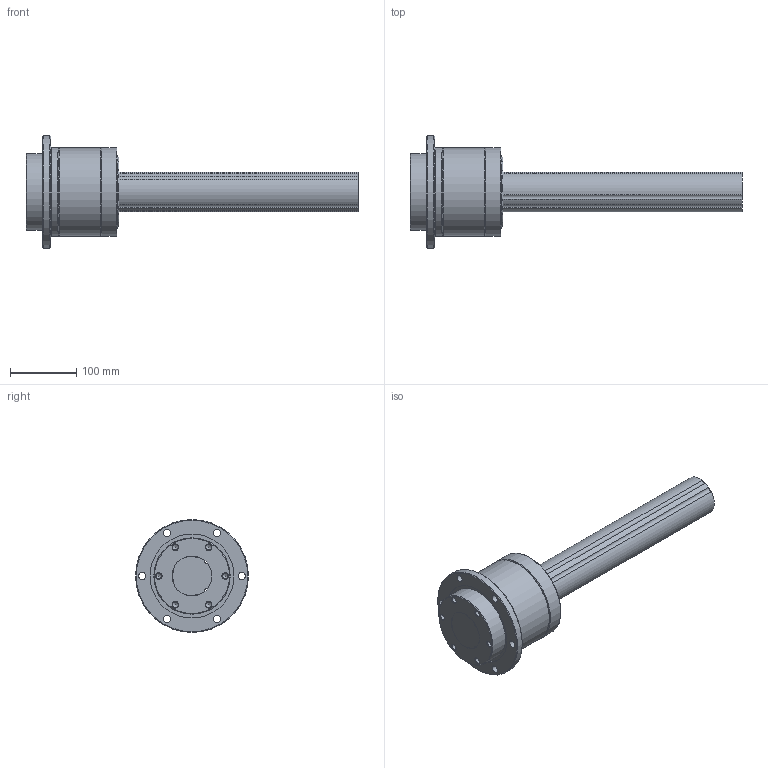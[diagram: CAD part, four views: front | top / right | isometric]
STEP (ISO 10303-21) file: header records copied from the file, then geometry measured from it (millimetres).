
FILE_DESCRIPTION(/* description */ ('STEP AP214'),/* implementation_level */ '2;1');
FILE_NAME(/* name */ 'LTR60+500L(00-)',/* time_stamp */ '2024-09-04T12:28:25+02:00',/* author */ ('License CC BY-ND 4.0'),/* organization */ ('CADENAS'),/* preprocessor_version */ 'ST-DEVELOPER v19.3',/* originating_system */ 'PARTsolutions',/* authorisation */ ' ');
FILE_SCHEMA (('AUTOMOTIVE_DESIGN {1 0 10303 214 3 1 1}'));
Length unit declared in the file: millimetre
Products named in the file (3): LTR60+500L(00-); LTR 60500 CTLTR Shaft; LTR 60 CTLTR Cyl
Assembly tree (3 placements, depth 2):
  LTR60+500L(00-)
    LTR 60500 CTLTR Shaft
    LTR 60 CTLTR Cyl  x2
Bounding box: 500 x 170 x 170 mm (x, y, z)
Volume: 4430742.7 mm3; surface area: 376476.8 mm2
Topology: 3 solids, 3 shells, 120 faces, 278 edges, 180 vertices
Faces by surface type: cylinder 56, cone 36, plane 22, torus 6
Full cylindrical faces by diameter (mm): 8.376 x12, 11 x12, 60 x2, 108.5 x2, 115 x2, 120.6 x2, 126.5 x2, 133 x2, 133.4 x2, 134 x4, 170 x2
Entity records: 1699 total; most frequent: DIRECTION 320, CARTESIAN_POINT 255, ORIENTED_EDGE 190, AXIS2_PLACEMENT_3D 154, FACE_BOUND 138, EDGE_LOOP 132, EDGE_CURVE 95, VERTEX_POINT 89
